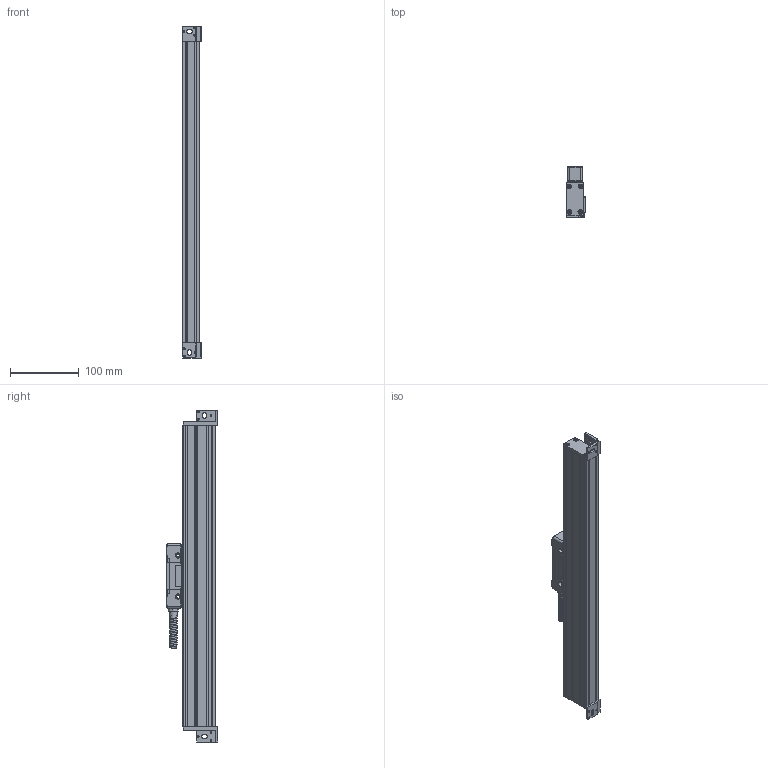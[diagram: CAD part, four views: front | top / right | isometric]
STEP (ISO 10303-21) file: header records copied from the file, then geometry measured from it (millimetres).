
FILE_DESCRIPTION (( 'STEP AP214' ), '1' );
FILE_NAME ('MLC310x0320.STEP', '2021-05-08T11:48:06', ( '' ), ( '' ), 'SwSTEP 2.0', 'SolidWorks 2014', '' );
FILE_SCHEMA (( 'AUTOMOTIVE_DESIGN' ));
Length unit declared in the file: millimetre
Products named in the file (1): MLC310x0320
Bounding box: 27 x 75.15 x 484 mm (x, y, z)
Surface area: 96943 mm2 (no closed solid volume)
Topology: 0 solids, 21 shells, 459 faces, 1494 edges, 1034 vertices
Faces by surface type: plane 185, cylinder 151, cone 81, bspline 32, torus 10
Entity records: 31950 total; most frequent: CARTESIAN_POINT 14189, DIRECTION 2595, ORIENTED_EDGE 2397, EDGE_CURVE 1486, VERTEX_POINT 1034, AXIS2_PLACEMENT_3D 899, LINE 797, VECTOR 797
